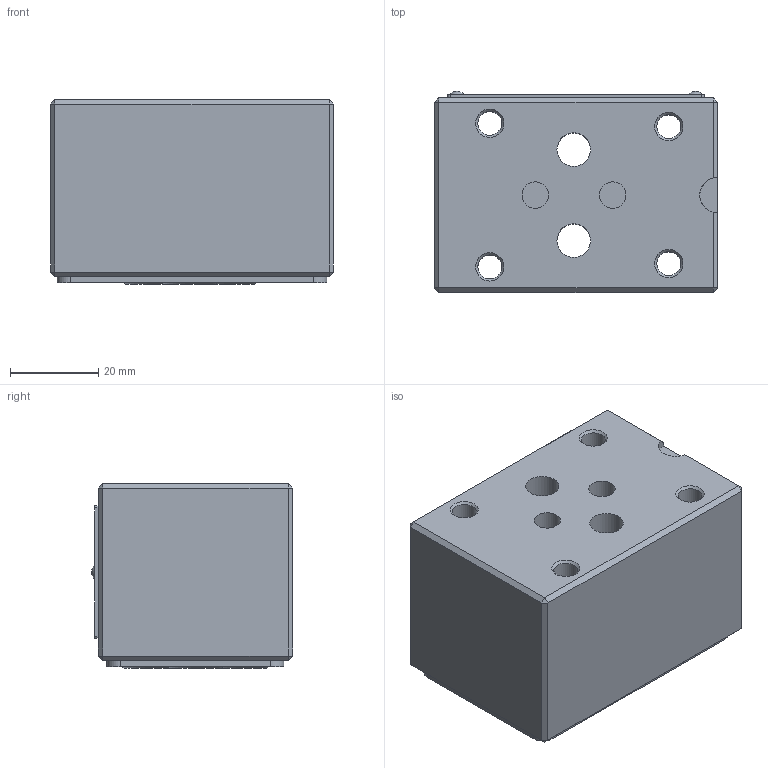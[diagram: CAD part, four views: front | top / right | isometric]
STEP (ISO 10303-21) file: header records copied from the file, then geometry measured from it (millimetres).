
FILE_DESCRIPTION(/* description */ (''),/* implementation_level */ '2;1');
FILE_NAME(/* name */ 'Z1S6E叠加式单向阀.prt.stp',/* time_stamp */ '2022-03-30T19:24:32+08:00',/* author */ (''),/* organization */ (''),/* preprocessor_version */ 'ST-DEVELOPER v16.7',/* originating_system */ 'SIEMENS PLM Software NX 12.0',/* authorisation */ '');
FILE_SCHEMA (('AUTOMOTIVE_DESIGN { 1 0 10303 214 3 1 1 1 }'));
Length unit declared in the file: millimetre
Products named in the file (1): Z1S6E叠加式单向阀
Bounding box: 64 x 45.5 x 41.78 mm (x, y, z)
Volume: 110453.6 mm3; surface area: 29431.5 mm2
Topology: 11 solids, 11 shells, 1069 faces, 2994 edges, 1983 vertices
Faces by surface type: plane 933, extrusion 77, cylinder 43, cone 10, torus 4, sphere 2
Full cylindrical faces by diameter (mm): 1.8 x2, 1.9 x2, 2 x2, 2.5 x2, 3.4 x2, 5.4 x4, 5.5 x4, 6 x2, 7.6 x2, 10 x2, 12 x2, 12.2 x4, 14 x4
Entity records: 40521 total; most frequent: CARTESIAN_POINT 6676, ORIENTED_EDGE 5870, DIRECTION 4940, EDGE_CURVE 2935, VECTOR 2762, LINE 2685, VERTEX_POINT 1978, EDGE_LOOP 1187
